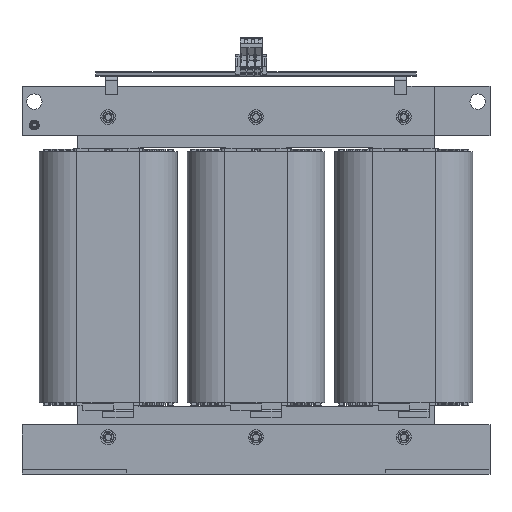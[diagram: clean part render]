
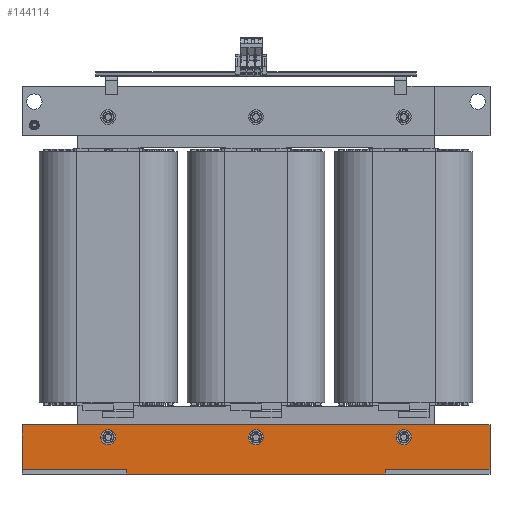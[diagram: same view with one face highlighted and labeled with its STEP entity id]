
A CAD part, front view. The second image highlights one B-rep face of the part: STEP entity #144114.
In plain terms, the highlighted planar face has unit normal (0, -1, 0).
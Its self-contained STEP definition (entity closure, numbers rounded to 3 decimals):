
#139644=CARTESIAN_POINT('',(240.,-58.,-249.5));
#139645=VERTEX_POINT('',#139644);
#139646=CARTESIAN_POINT('',(240.,-58.,-260.));
#139647=DIRECTION('',(0.0,1.0,0.0));
#139648=DIRECTION('',(0.0,0.0,1.0));
#139649=AXIS2_PLACEMENT_3D('',#139646,#139647,#139648);
#139650=CIRCLE('',#139649,10.5);
#139651=EDGE_CURVE('',#139645,#139645,#139650,.T.);
#140650=CARTESIAN_POINT('',(0.,-58.,-249.5));
#140651=VERTEX_POINT('',#140650);
#140652=CARTESIAN_POINT('',(0.,-58.0,-260.));
#140653=DIRECTION('',(0.0,1.0,0.0));
#140654=DIRECTION('',(0.0,0.0,1.0));
#140655=AXIS2_PLACEMENT_3D('',#140652,#140653,#140654);
#140656=CIRCLE('',#140655,10.5);
#140657=EDGE_CURVE('',#140651,#140651,#140656,.T.);
#141656=CARTESIAN_POINT('',(-240.,-58.,-249.5));
#141657=VERTEX_POINT('',#141656);
#141658=CARTESIAN_POINT('',(-240.,-58.,-260.));
#141659=DIRECTION('',(0.0,1.0,0.0));
#141660=DIRECTION('',(0.0,0.0,1.0));
#141661=AXIS2_PLACEMENT_3D('',#141658,#141659,#141660);
#141662=CIRCLE('',#141661,10.5);
#141663=EDGE_CURVE('',#141657,#141657,#141662,.T.);
#143502=CARTESIAN_POINT('',(-380.,-58.,-312.));
#143503=VERTEX_POINT('',#143502);
#143504=CARTESIAN_POINT('',(-210.,-58.,-312.));
#143505=VERTEX_POINT('',#143504);
#143506=CARTESIAN_POINT('',(-210.,-58.,-312.));
#143507=DIRECTION('',(-1.0,0.0,0.0));
#143508=VECTOR('',#143507,170.);
#143509=LINE('',#143506,#143508);
#143510=EDGE_CURVE('',#143503,#143505,#143509,.F.);
#143643=CARTESIAN_POINT('',(-210.,-58.,-320.));
#143644=VERTEX_POINT('',#143643);
#143651=CARTESIAN_POINT('',(-210.,-58.,-320.));
#143652=DIRECTION('',(0.0,0.0,1.0));
#143653=VECTOR('',#143652,8.0);
#143654=LINE('',#143651,#143653);
#143655=EDGE_CURVE('',#143644,#143505,#143654,.T.);
#143666=CARTESIAN_POINT('',(-380.,-58.,-240.));
#143667=VERTEX_POINT('',#143666);
#143668=CARTESIAN_POINT('',(-380.,-58.,-312.));
#143669=DIRECTION('',(0.0,0.0,1.0));
#143670=VECTOR('',#143669,72.0);
#143671=LINE('',#143668,#143670);
#143672=EDGE_CURVE('',#143503,#143667,#143671,.T.);
#143714=CARTESIAN_POINT('',(210.,-58.,-312.));
#143715=VERTEX_POINT('',#143714);
#143730=CARTESIAN_POINT('',(380.,-58.,-312.));
#143731=VERTEX_POINT('',#143730);
#143738=CARTESIAN_POINT('',(380.,-58.,-312.));
#143739=DIRECTION('',(-1.0,0.0,0.0));
#143740=VECTOR('',#143739,170.);
#143741=LINE('',#143738,#143740);
#143742=EDGE_CURVE('',#143715,#143731,#143741,.F.);
#143844=CARTESIAN_POINT('',(380.,-58.,-240.));
#143845=VERTEX_POINT('',#143844);
#143846=CARTESIAN_POINT('',(380.,-58.,-240.));
#143847=DIRECTION('',(0.0,0.0,-1.0));
#143848=VECTOR('',#143847,72.0);
#143849=LINE('',#143846,#143848);
#143850=EDGE_CURVE('',#143845,#143731,#143849,.T.);
#143891=CARTESIAN_POINT('',(-380.,-58.,-240.));
#143892=DIRECTION('',(1.0,0.0,0.0));
#143893=VECTOR('',#143892,760.);
#143894=LINE('',#143891,#143893);
#143895=EDGE_CURVE('',#143667,#143845,#143894,.T.);
#143960=CARTESIAN_POINT('',(210.,-58.,-320.));
#143961=VERTEX_POINT('',#143960);
#143968=CARTESIAN_POINT('',(210.,-58.,-320.));
#143969=DIRECTION('',(-1.0,0.0,0.0));
#143970=VECTOR('',#143969,420.);
#143971=LINE('',#143968,#143970);
#143972=EDGE_CURVE('',#143961,#143644,#143971,.T.);
#144079=CARTESIAN_POINT('',(210.,-58.,-320.));
#144080=DIRECTION('',(0.0,0.0,1.0));
#144081=VECTOR('',#144080,8.0);
#144082=LINE('',#144079,#144081);
#144083=EDGE_CURVE('',#143961,#143715,#144082,.T.);
#144090=CARTESIAN_POINT('',(210.,-58.,-320.));
#144091=DIRECTION('',(0.0,-1.0,0.0));
#144092=DIRECTION('',(0.0,0.0,-1.0));
#144093=AXIS2_PLACEMENT_3D('',#144090,#144091,#144092);
#144094=PLANE('',#144093);
#144095=ORIENTED_EDGE('',*,*,#143895,.F.);
#144096=ORIENTED_EDGE('',*,*,#143672,.F.);
#144097=ORIENTED_EDGE('',*,*,#143510,.T.);
#144098=ORIENTED_EDGE('',*,*,#143655,.F.);
#144099=ORIENTED_EDGE('',*,*,#143972,.F.);
#144100=ORIENTED_EDGE('',*,*,#144083,.T.);
#144101=ORIENTED_EDGE('',*,*,#143742,.T.);
#144102=ORIENTED_EDGE('',*,*,#143850,.F.);
#144103=EDGE_LOOP('',(#144095,#144096,#144097,#144098,#144099,#144100,#144101,#144102));
#144104=FACE_OUTER_BOUND('',#144103,.T.);
#144105=ORIENTED_EDGE('',*,*,#139651,.T.);
#144106=EDGE_LOOP('',(#144105));
#144107=FACE_BOUND('',#144106,.T.);
#144108=ORIENTED_EDGE('',*,*,#140657,.T.);
#144109=EDGE_LOOP('',(#144108));
#144110=FACE_BOUND('',#144109,.T.);
#144111=ORIENTED_EDGE('',*,*,#141663,.T.);
#144112=EDGE_LOOP('',(#144111));
#144113=FACE_BOUND('',#144112,.T.);
#144114=ADVANCED_FACE('',(#144104,#144107,#144110,#144113),#144094,.T.);
